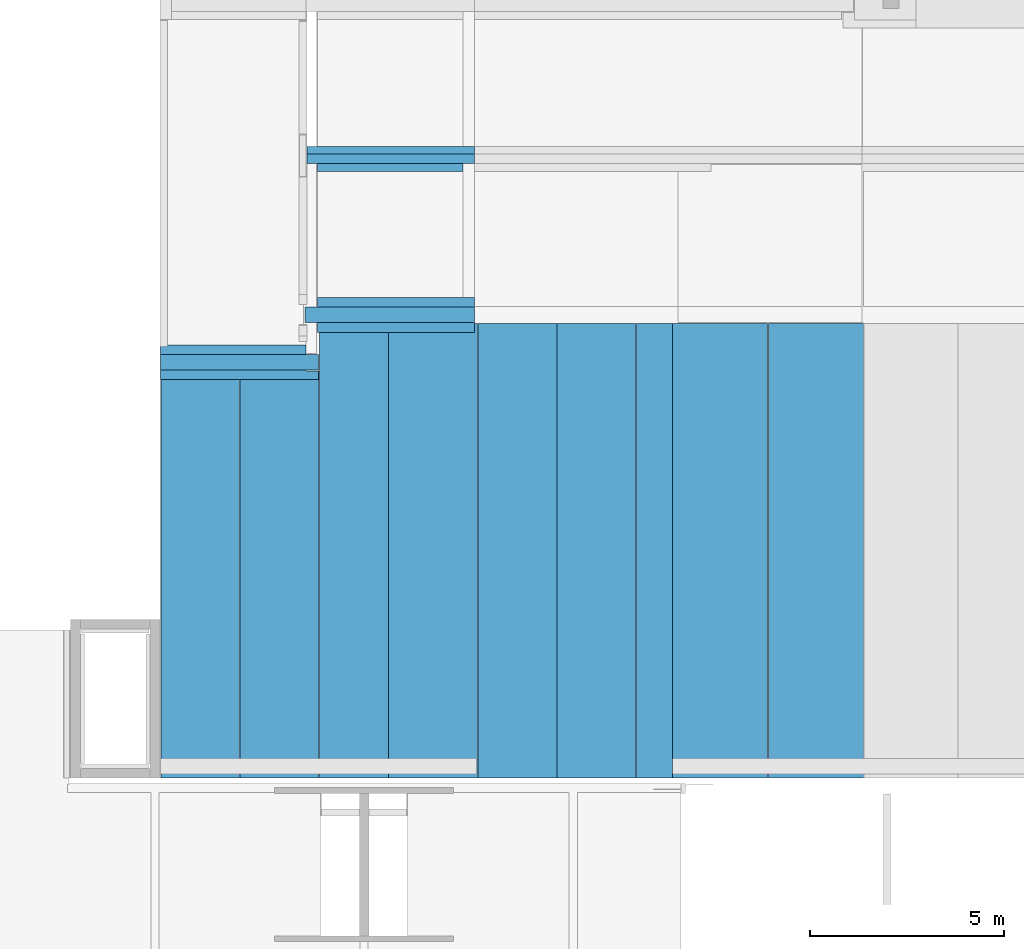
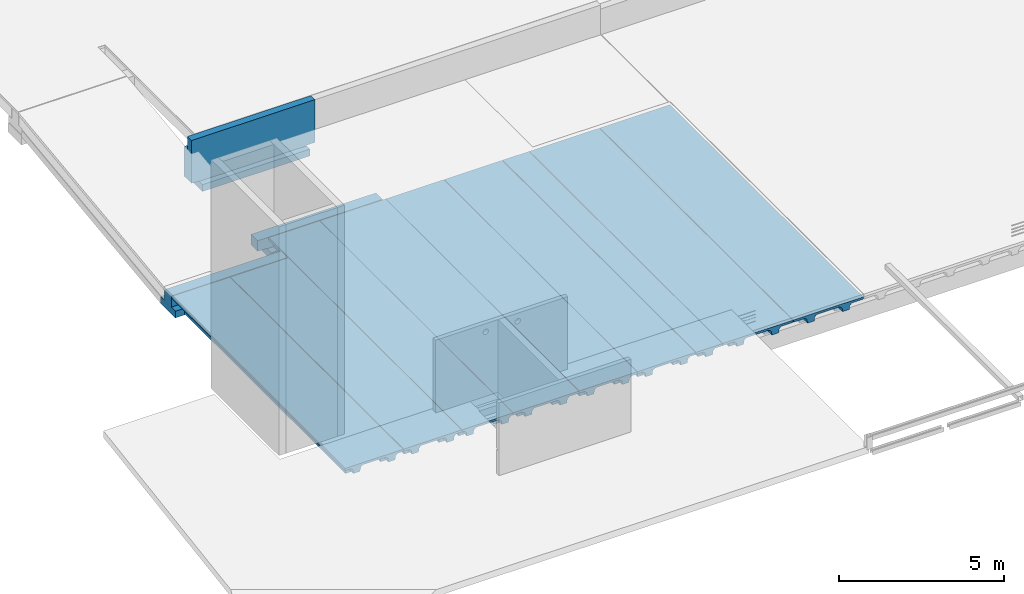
# One storey, part 26 of 36: 12 beams.
"""IFC2X3 building model written with IfcOpenShell, lengths in millimetres."""

from ifc_helpers import new_model, entity, si_unit, converted_unit, derived_unit, direction, frame, origin, place, context, subcontext, project, spatial, faceted_brep, material, type_object, element, save


model = new_model("IFC2X3")

# Units and contexts
model_context = context("Model", 3, precision=0.01, world=origin(), true_north=direction((6.12303176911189e-17, 1.0)))
body_context = subcontext(model_context, "Body", "Model", "MODEL_VIEW")
ifc_project = project(units=[si_unit("LENGTHUNIT", "METRE", prefix="MILLI"), si_unit("AREAUNIT", "SQUARE_METRE"), si_unit("VOLUMEUNIT", "CUBIC_METRE"), converted_unit("PLANEANGLEUNIT", "DEGREE", entity("IfcRatioMeasure", 0.0174532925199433), si_unit("PLANEANGLEUNIT", "RADIAN"), dimensions=[0, 0, 0, 0, 0, 0, 0]), si_unit("MASSUNIT", "GRAM", prefix="KILO"), derived_unit("MASSDENSITYUNIT", [(si_unit("MASSUNIT", "GRAM", prefix="KILO"), 1), (si_unit("LENGTHUNIT", "METRE"), -3)]), si_unit("TIMEUNIT", "SECOND"), si_unit("FREQUENCYUNIT", "HERTZ"), si_unit("THERMODYNAMICTEMPERATUREUNIT", "DEGREE_CELSIUS"), derived_unit("THERMALTRANSMITTANCEUNIT", [(si_unit("MASSUNIT", "GRAM", prefix="KILO"), 1), (si_unit("THERMODYNAMICTEMPERATUREUNIT", "KELVIN"), -1), (si_unit("TIMEUNIT", "SECOND"), -3)]), derived_unit("VOLUMETRICFLOWRATEUNIT", [(si_unit("LENGTHUNIT", "METRE"), 3), (si_unit("TIMEUNIT", "SECOND"), -1)]), si_unit("ELECTRICCURRENTUNIT", "AMPERE"), si_unit("ELECTRICVOLTAGEUNIT", "VOLT"), si_unit("POWERUNIT", "WATT"), si_unit("FORCEUNIT", "NEWTON", prefix="KILO"), si_unit("ILLUMINANCEUNIT", "LUX"), si_unit("LUMINOUSFLUXUNIT", "LUMEN"), si_unit("LUMINOUSINTENSITYUNIT", "CANDELA"), derived_unit("USERDEFINED", [(si_unit("MASSUNIT", "GRAM", prefix="KILO"), -1), (si_unit("LENGTHUNIT", "METRE"), -2), (si_unit("TIMEUNIT", "SECOND"), 3), (si_unit("LUMINOUSFLUXUNIT", "LUMEN"), 1)]), derived_unit("LINEARVELOCITYUNIT", [(si_unit("LENGTHUNIT", "METRE"), 1), (si_unit("TIMEUNIT", "SECOND"), -1)]), si_unit("PRESSUREUNIT", "PASCAL"), derived_unit("USERDEFINED", [(si_unit("LENGTHUNIT", "METRE"), -2), (si_unit("MASSUNIT", "GRAM", prefix="KILO"), 1), (si_unit("TIMEUNIT", "SECOND"), -2)])], contexts=[model_context])

# Site, building, storey
site_placement = place(None, origin())
site = spatial("IfcSite", under=ifc_project, at=site_placement, Name="Default", CompositionType="ELEMENT")
building_placement = place(site_placement, origin())
building = spatial("IfcBuilding", under=site, at=building_placement, Name="niet gebruiken", CompositionType="ELEMENT")
storey_placement = place(building_placement, frame((0.0, 0.0, 12600.0)))
storey = spatial("IfcBuildingStorey", under=building, at=storey_placement, Name="04 vierde verdieping", CompositionType="ELEMENT", Elevation=12600.0)

# Beams
ifc_material = material(Name="NLRS_f2_beton prefab")
beam_type_1 = type_object("IfcBeamType", Name="NLRS_28.11_SF_WPB_prefabbeton balk dubbele sponning_gen:650x1860/200x1530/200x490", PredefinedType="BEAM")
beam_1_placement = place(storey_placement, frame((12025.0, 24551.0, -2020.0)))
element("IfcBeam", 1, at=beam_1_placement, inside=storey, type_object=beam_type_1, material=ifc_material, Name="NLRS_28.11_SF_WPB_prefabbeton balk dubbele sponning_gen:650x1860/200x1530/200x490", ObjectType="NLRS_28.11_SF_WPB_prefabbeton balk dubbele sponning_gen:650x1860/200x1530/200x490", context=body_context, shape_type="Brep", body=[
    faceted_brep([(0.0, 450.0, 1370.0), (0.0, 650.0, 1370.0), (0.0, 650.0, 1327.46037565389), (0.0, 650.0, 275.0), (0.0, 200.0, 275.0), (0.0, 200.0, 1271.30609318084), (0.0, 200.0, 1372.08167895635), (0.0, 200.0, 1860.0), (0.0, 450.0, 1860.0), (0.0, 450.0, 1403.2785025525), (4320.0, 650.0, 1370.0), (4320.0, 650.0, 275.0), (4030.0, 650.0, 275.0), (4030.0, 650.0, 0.0), (270.0, 650.0, 0.0), (270.0, 650.0, 275.0), (4320.0, 450.0, 1370.0), (4320.0, 450.0, 1780.0), (4320.0, 450.0, 1859.0), (4320.0, 450.0, 1860.0), (4320.0, 200.0, 1860.0), (4320.0, 200.0, 760.0), (4320.0, 200.0, 660.0), (4320.0, 200.0, 275.0), (250.0, 450.0, 1860.0), (270.0, 200.0, 275.0), (270.0, 200.0, 255.0), (4030.0, 200.0, 255.0), (4030.0, 200.0, 275.0), (270.0, 0.0, 255.0), (4030.0, 0.0, 255.0), (270.0, 0.0, 0.0), (4030.0, 0.0, 0.0)], [[[0, 1, 2, 3, 4, 5, 6, 7, 8, 9]], [[1, 10, 11, 12, 13, 14, 15, 3, 2]], [[10, 16, 17, 18, 19, 20, 21, 22, 23, 11]], [[20, 19, 24, 8, 7]], [[20, 7, 6, 5, 4, 25, 26, 27, 28, 23, 22, 21]], [[26, 29, 30, 27]], [[16, 0, 9, 8, 24, 19, 18, 17]], [[1, 0, 16, 10]], [[29, 31, 32, 30]], [[31, 14, 13, 32]], [[25, 15, 14, 31, 29, 26]], [[15, 25, 4, 3]], [[12, 28, 27, 30, 32, 13]], [[28, 12, 11, 23]]]),
])
beam_type_2 = type_object("IfcBeamType", Name="NLRS_28.11_SF_WPB_tt-plaatvloer Holcon 102B_gen:TT-plaat, b=2460", PredefinedType="BEAM")
beam_2_placement = place(storey_placement, frame((23937.6624123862, 8896.0, -1970.0), z_axis=(0.0, 0.0, 1.0), x_axis=(0.0, -1.0, 0.0)))
element("IfcBeam", 2, at=beam_2_placement, inside=storey, type_object=beam_type_2, material=ifc_material, Name="NLRS_28.11_SF_WPB_tt-plaatvloer Holcon 102B_gen:TT-plaat, b=2460", ObjectType="NLRS_28.11_SF_WPB_tt-plaatvloer Holcon 102B_gen:TT-plaat, b=2460", context=body_context, shape_type="Brep", body=[
    faceted_brep([(-11730.0, 0.0, 610.0), (-11730.0, 0.0, 529.999995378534), (0.0, 0.0, 529.999995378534), (0.0, 0.0, 610.0), (-520.0, 733.513622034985, 320.0), (-520.0, 493.468888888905, 320.0), (-520.0, 518.500000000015, 0.0), (-520.0, 708.482510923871, 0.0), (-11480.0, 501.291111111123, 220.0), (-11480.0, 725.691399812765, 220.0), (-11480.0, 708.482510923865, 0.0), (-11480.0, 518.500000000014, 0.0), (-11730.0, 744.000076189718, 454.059783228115), (-11730.0, 819.940288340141, 529.999995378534), (0.0, 819.940288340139, 529.999995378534), (0.0, 744.000076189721, 454.059783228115), (-11730.0, 1971.01904939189, 454.078756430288), (-11730.0, 2046.94028834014, 529.999995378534), (0.0, 2046.94028834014, 529.999995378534), (0.0, 1971.01904939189, 454.078756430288), (-11730.0, 1634.05971165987, 529.999995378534), (-11730.0, 1709.9999238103, 454.059783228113), (0.0, 1709.9999238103, 454.059783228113), (0.0, 1634.05971165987, 529.999995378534), (-11730.0, 2454.0, 610.0), (-11730.0, 2454.0, 529.999995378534), (-11730.0, 1952.7088888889, 220.0), (-11730.0, 1728.30860018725, 220.0), (-11730.0, 725.691399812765, 220.0), (-11730.0, 501.291111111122, 220.0), (-11730.0, 482.980950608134, 454.078756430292), (-11730.0, 407.059711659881, 529.999995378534), (0.0, 407.059711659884, 529.999995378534), (0.0, 482.980950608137, 454.078756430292), (0.0, 493.468888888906, 320.0), (0.0, 733.513622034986, 320.0), (0.0, 1720.48637796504, 320.0), (0.0, 1960.53111111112, 320.0), (0.0, 2454.0, 529.999995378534), (0.0, 2454.0, 610.0), (-520.0, 1935.5, 0.0), (-520.0, 1745.51748907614, 0.0), (-11480.0, 1745.51748907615, 0.0), (-11480.0, 1935.5, 0.0), (-520.0, 1960.53111111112, 320.0), (-11480.0, 1952.7088888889, 220.0), (-11480.0, 1728.30860018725, 220.0), (-520.0, 1720.48637796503, 320.0)], [[[0, 1, 2, 3]], [[4, 5, 6, 7]], [[8, 9, 10, 11]], [[12, 13, 14, 15]], [[16, 17, 18, 19]], [[20, 21, 22, 23]], [[0, 24, 25, 17, 16, 26, 27, 21, 20, 13, 12, 28, 29, 30, 31, 1]], [[3, 2, 32, 33, 34, 35, 15, 14, 23, 22, 36, 37, 19, 18, 38, 39]], [[1, 31, 32, 2]], [[24, 0, 3, 39]], [[25, 24, 39, 38]], [[17, 25, 38, 18]], [[13, 20, 23, 14]], [[40, 41, 42, 43]], [[16, 19, 37, 44, 40, 43, 45, 26]], [[22, 21, 27, 46, 42, 41, 47, 36]], [[12, 15, 35, 4, 7, 10, 9, 28]], [[7, 6, 11, 10]], [[33, 30, 29, 8, 11, 6, 5, 34]], [[5, 4, 35, 34]], [[9, 8, 29, 28]], [[31, 30, 33, 32]], [[44, 47, 41, 40]], [[45, 46, 27, 26]], [[47, 44, 37, 36]], [[46, 45, 43, 42]]]),
])
beam_3_placement = place(storey_placement, frame((21466.9141023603, 8896.0, -1970.0), z_axis=(0.0, 0.0, 1.0), x_axis=(0.0, -1.0, 0.0)))
element("IfcBeam", 3, at=beam_3_placement, inside=storey, type_object=beam_type_2, material=ifc_material, Name="NLRS_28.11_SF_WPB_tt-plaatvloer Holcon 102B_gen:TT-plaat, b=2460", ObjectType="NLRS_28.11_SF_WPB_tt-plaatvloer Holcon 102B_gen:TT-plaat, b=2460", context=body_context, shape_type="Brep", body=[
    faceted_brep([(-11730.0, 0.0, 610.0), (-11730.0, 0.0, 529.999995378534), (0.0, 0.0, 529.999995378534), (0.0, 0.0, 610.0), (-520.0, 733.513622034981, 320.0), (-520.0, 493.4688888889, 320.0), (-520.0, 518.500000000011, 0.0), (-520.0, 708.482510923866, 0.0), (-11480.0, 501.291111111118, 220.0), (-11480.0, 725.691399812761, 220.0), (-11480.0, 708.482510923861, 0.0), (-11480.0, 518.50000000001, 0.0), (-11730.0, 744.000076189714, 454.059783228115), (-11730.0, 819.940288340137, 529.999995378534), (0.0, 819.940288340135, 529.999995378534), (0.0, 744.000076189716, 454.059783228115), (-11730.0, 1971.01904939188, 454.078756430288), (-11730.0, 2046.94028834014, 529.999995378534), (0.0, 2046.94028834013, 529.999995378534), (0.0, 1971.01904939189, 454.078756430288), (-11730.0, 1634.05971165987, 529.999995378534), (-11730.0, 1709.99992381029, 454.059783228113), (0.0, 1709.99992381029, 454.059783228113), (0.0, 1634.05971165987, 529.999995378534), (-11730.0, 2454.0, 610.0), (-11730.0, 2454.0, 529.999995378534), (-11730.0, 1952.70888888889, 220.0), (-11730.0, 1728.30860018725, 220.0), (-11730.0, 725.69139981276, 220.0), (-11730.0, 501.291111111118, 220.0), (-11730.0, 482.98095060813, 454.078756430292), (-11730.0, 407.059711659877, 529.999995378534), (0.0, 407.05971165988, 529.999995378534), (0.0, 482.980950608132, 454.078756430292), (0.0, 493.468888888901, 320.0), (0.0, 733.513622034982, 320.0), (0.0, 1720.48637796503, 320.0), (0.0, 1960.53111111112, 320.0), (0.0, 2454.0, 529.999995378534), (0.0, 2454.0, 610.0), (-520.0, 1935.5, 0.0), (-520.0, 1745.51748907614, 0.0), (-11480.0, 1745.51748907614, 0.0), (-11480.0, 1935.5, 0.0), (-520.0, 1960.53111111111, 320.0), (-11480.0, 1952.70888888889, 220.0), (-11480.0, 1728.30860018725, 220.0), (-520.0, 1720.48637796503, 320.0)], [[[0, 1, 2, 3]], [[4, 5, 6, 7]], [[8, 9, 10, 11]], [[12, 13, 14, 15]], [[16, 17, 18, 19]], [[20, 21, 22, 23]], [[0, 24, 25, 17, 16, 26, 27, 21, 20, 13, 12, 28, 29, 30, 31, 1]], [[3, 2, 32, 33, 34, 35, 15, 14, 23, 22, 36, 37, 19, 18, 38, 39]], [[1, 31, 32, 2]], [[24, 0, 3, 39]], [[25, 24, 39, 38]], [[17, 25, 38, 18]], [[13, 20, 23, 14]], [[40, 41, 42, 43]], [[16, 19, 37, 44, 40, 43, 45, 26]], [[22, 21, 27, 46, 42, 41, 47, 36]], [[12, 15, 35, 4, 7, 10, 9, 28]], [[7, 6, 11, 10]], [[33, 30, 29, 8, 11, 6, 5, 34]], [[5, 4, 35, 34]], [[9, 8, 29, 28]], [[31, 30, 33, 32]], [[44, 47, 41, 40]], [[46, 45, 43, 42]], [[47, 44, 37, 36]], [[45, 46, 27, 26]]]),
])
beam_type_3 = type_object("IfcBeamType", Name="NLRS_28.11_SF_WPB_tt-plaatvloer Holcon 102B_gen:TT-plaat, b=2040", PredefinedType="BEAM")
beam_4_placement = place(storey_placement, frame((18483.3738495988, 8896.0, -1970.0), z_axis=(0.0, 0.0, 1.0), x_axis=(0.0, -1.0, 0.0)))
element("IfcBeam", 4, at=beam_4_placement, inside=storey, type_object=beam_type_3, material=ifc_material, Name="NLRS_28.11_SF_WPB_tt-plaatvloer Holcon 102B_gen:TT-plaat, b=2040", ObjectType="NLRS_28.11_SF_WPB_tt-plaatvloer Holcon 102B_gen:TT-plaat, b=2040", context=body_context, shape_type="Brep", body=[
    faceted_brep([(-11730.0, 0.0, 610.0), (-11730.0, 0.0, 529.999995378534), (0.0, 0.0, 529.999995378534), (0.0, 0.0, 610.0), (-520.0, 523.513622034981, 320.0), (-520.0, 283.468888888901, 320.0), (-520.0, 308.500000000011, 0.0), (-520.0, 498.482510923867, 0.0), (-11480.0, 291.291111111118, 220.0), (-11480.0, 515.691399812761, 220.0), (-11480.0, 498.48251092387, 0.0), (-11480.0, 308.500000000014, 0.0), (-11730.0, 534.000076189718, 454.059783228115), (-11730.0, 609.940288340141, 529.999995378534), (0.0, 609.940288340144, 529.999995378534), (0.0, 534.000076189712, 454.059783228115), (-11730.0, 1761.01904939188, 454.078756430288), (-11730.0, 1836.94028834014, 529.999995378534), (0.0, 1836.94028834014, 529.999995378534), (0.0, 1761.01904939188, 454.078756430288), (-11730.0, 1424.05971165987, 529.999995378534), (-11730.0, 1499.9999238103, 454.059783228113), (0.0, 1499.9999238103, 454.059783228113), (0.0, 1424.05971165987, 529.999995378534), (-11730.0, 2034.0, 610.0), (-11730.0, 2034.0, 529.999995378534), (-11730.0, 1742.70888888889, 220.0), (-11730.0, 1518.30860018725, 220.0), (-11730.0, 515.691399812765, 220.0), (-11730.0, 291.291111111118, 220.0), (-11730.0, 272.980950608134, 454.078756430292), (-11730.0, 197.059711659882, 529.999995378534), (0.0, 197.05971165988, 529.999995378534), (0.0, 272.980950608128, 454.078756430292), (0.0, 283.468888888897, 320.0), (0.0, 523.513622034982, 320.0), (0.0, 1510.48637796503, 320.0), (0.0, 1750.53111111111, 320.0), (0.0, 2034.0, 529.999995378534), (0.0, 2034.0, 610.0), (-520.0, 1725.5, 0.0), (-520.0, 1535.51748907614, 0.0), (-11480.0, 1535.51748907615, 0.0), (-11480.0, 1725.5, 0.0), (-520.0, 1750.53111111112, 320.0), (-11480.0, 1742.7088888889, 220.0), (-11480.0, 1518.30860018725, 220.0), (-520.0, 1510.48637796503, 320.0)], [[[0, 1, 2, 3]], [[4, 5, 6, 7]], [[8, 9, 10, 11]], [[12, 13, 14, 15]], [[16, 17, 18, 19]], [[20, 21, 22, 23]], [[0, 24, 25, 17, 16, 26, 27, 21, 20, 13, 12, 28, 29, 30, 31, 1]], [[3, 2, 32, 33, 34, 35, 15, 14, 23, 22, 36, 37, 19, 18, 38, 39]], [[1, 31, 32, 2]], [[24, 0, 3, 39]], [[25, 24, 39, 38]], [[17, 25, 38, 18]], [[13, 20, 23, 14]], [[40, 41, 42, 43]], [[16, 19, 37, 44, 40, 43, 45, 26]], [[22, 21, 27, 46, 42, 41, 47, 36]], [[12, 15, 35, 4, 7, 10, 9, 28]], [[7, 6, 11, 10]], [[33, 30, 29, 8, 11, 6, 5, 34]], [[5, 4, 35, 34]], [[9, 8, 29, 28]], [[31, 30, 33, 32]], [[44, 47, 41, 40]], [[46, 45, 43, 42]], [[47, 44, 37, 36]], [[45, 46, 27, 26]]]),
])
beam_5_placement = place(storey_placement, frame((16441.0087676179, 8896.0, -1970.0), z_axis=(0.0, 0.0, 1.0), x_axis=(0.0, -1.0, 0.0)))
element("IfcBeam", 5, at=beam_5_placement, inside=storey, type_object=beam_type_3, material=ifc_material, Name="NLRS_28.11_SF_WPB_tt-plaatvloer Holcon 102B_gen:TT-plaat, b=2040", ObjectType="NLRS_28.11_SF_WPB_tt-plaatvloer Holcon 102B_gen:TT-plaat, b=2040", context=body_context, shape_type="Brep", body=[
    faceted_brep([(-11730.0, 0.0, 610.0), (-11730.0, 0.0, 529.999995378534), (0.0, 0.0, 529.999995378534), (0.0, 0.0, 610.0), (-520.0, 523.513622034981, 320.0), (-520.0, 283.468888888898, 320.0), (-520.0, 308.500000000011, 0.0), (-520.0, 498.482510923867, 0.0), (-11480.0, 291.291111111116, 220.0), (-11480.0, 515.691399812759, 220.0), (-11480.0, 498.482510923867, 0.0), (-11480.0, 308.500000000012, 0.0), (-11730.0, 534.000076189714, 454.059783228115), (-11730.0, 609.940288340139, 529.999995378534), (0.0, 609.940288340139, 529.999995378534), (0.0, 534.000076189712, 454.059783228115), (-11730.0, 1761.01904939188, 454.078756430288), (-11730.0, 1836.94028834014, 529.999995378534), (0.0, 1836.94028834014, 529.999995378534), (0.0, 1761.01904939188, 454.078756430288), (-11730.0, 1424.05971165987, 529.999995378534), (-11730.0, 1499.9999238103, 454.059783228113), (0.0, 1499.9999238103, 454.059783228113), (0.0, 1424.05971165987, 529.999995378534), (-11730.0, 2034.0, 610.0), (-11730.0, 2034.0, 529.999995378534), (-11730.0, 1742.70888888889, 220.0), (-11730.0, 1518.30860018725, 220.0), (-11730.0, 515.691399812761, 220.0), (-11730.0, 291.291111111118, 220.0), (-11730.0, 272.98095060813, 454.078756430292), (-11730.0, 197.059711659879, 529.999995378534), (0.0, 197.059711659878, 529.999995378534), (0.0, 272.980950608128, 454.078756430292), (0.0, 283.468888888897, 320.0), (0.0, 523.513622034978, 320.0), (0.0, 1510.48637796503, 320.0), (0.0, 1750.53111111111, 320.0), (0.0, 2034.0, 529.999995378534), (0.0, 2034.0, 610.0), (-520.0, 1725.5, 0.0), (-520.0, 1535.51748907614, 0.0), (-11480.0, 1535.51748907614, 0.0), (-11480.0, 1725.5, 0.0), (-520.0, 1750.53111111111, 320.0), (-11480.0, 1742.7088888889, 220.0), (-11480.0, 1518.30860018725, 220.0), (-520.0, 1510.48637796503, 320.0)], [[[0, 1, 2, 3]], [[4, 5, 6, 7]], [[8, 9, 10, 11]], [[12, 13, 14, 15]], [[16, 17, 18, 19]], [[20, 21, 22, 23]], [[0, 24, 25, 17, 16, 26, 27, 21, 20, 13, 12, 28, 29, 30, 31, 1]], [[3, 2, 32, 33, 34, 35, 15, 14, 23, 22, 36, 37, 19, 18, 38, 39]], [[1, 31, 32, 2]], [[24, 0, 3, 39]], [[25, 24, 39, 38]], [[17, 25, 38, 18]], [[13, 20, 23, 14]], [[40, 41, 42, 43]], [[16, 19, 37, 44, 40, 43, 45, 26]], [[22, 21, 27, 46, 42, 41, 47, 36]], [[12, 15, 35, 4, 7, 10, 9, 28]], [[7, 6, 11, 10]], [[33, 30, 29, 8, 11, 6, 5, 34]], [[5, 4, 35, 34]], [[9, 8, 29, 28]], [[31, 30, 33, 32]], [[45, 46, 27, 26]], [[47, 44, 37, 36]], [[46, 45, 43, 42]], [[44, 47, 41, 40]]]),
])
beam_6_placement = place(storey_placement, frame((8252.0, 8896.0, -1970.0), z_axis=(0.0, 2.38712955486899e-09, 1.0), x_axis=(0.0, -1.0, 2.38712955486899e-09)))
element("IfcBeam", 6, at=beam_6_placement, inside=storey, type_object=beam_type_3, material=ifc_material, Name="NLRS_28.11_SF_WPB_tt-plaatvloer Holcon 102B_gen:TT-plaat, b=2040", ObjectType="NLRS_28.11_SF_WPB_tt-plaatvloer Holcon 102B_gen:TT-plaat, b=2040", context=body_context, shape_type="Brep", body=[
    faceted_brep([(-10510.0, 0.0, 610.000024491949), (-10510.0, 2034.0, 610.000024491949), (-10510.0, 2034.0, 530.000019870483), (-10510.0, 1836.94028834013, 530.000019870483), (-10510.0, 1761.01904939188, 454.078780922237), (-10510.0, 1742.70888888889, 220.000024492), (-10510.0, 1518.30860018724, 220.000024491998), (-10510.0, 1499.99992381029, 454.059807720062), (-10510.0, 1424.05971165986, 530.000019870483), (-10510.0, 609.940288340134, 530.000019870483), (-10510.0, 534.000076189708, 454.059807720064), (-10510.0, 515.691399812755, 220.000024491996), (-10510.0, 291.291111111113, 220.000024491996), (-10510.0, 272.980950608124, 454.078780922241), (-10510.0, 197.059711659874, 530.000019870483), (-10510.0, 0.0, 530.000019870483), (7.63876785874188e-07, 0.0, 610.000024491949), (7.63878691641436e-07, 0.0, 530.000019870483), (7.63878691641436e-07, 197.059711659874, 530.000019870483), (7.6387999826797e-07, 272.980950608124, 454.078780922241), (7.63877507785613e-07, 283.468888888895, 320.000024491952), (7.63877507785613e-07, 523.513622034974, 320.000024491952), (7.63875855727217e-07, 534.000076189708, 454.059807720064), (7.63878691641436e-07, 609.940288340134, 530.000019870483), (7.63878691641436e-07, 1424.05971165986, 530.000019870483), (7.6388018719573e-07, 1499.99992381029, 454.059807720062), (7.63879673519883e-07, 1510.48637796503, 320.000024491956), (7.63879673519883e-07, 1750.53111111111, 320.000024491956), (7.63877832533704e-07, 1761.01904939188, 454.078780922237), (7.63876525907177e-07, 1836.94028834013, 530.000019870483), (7.63876525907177e-07, 2034.0, 530.000019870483), (7.63876785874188e-07, 2034.0, 610.000024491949), (-520.0, 1725.49999999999, 2.44919487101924e-05), (-520.0, 1535.51748907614, 2.44919487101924e-05), (-10260.0, 1535.51748907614, 2.44919487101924e-05), (-10260.0, 1725.49999999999, 2.44919487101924e-05), (-520.0, 1750.53111111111, 320.000024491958), (-10260.0, 1742.70888888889, 220.000024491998), (-10260.0, 1518.30860018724, 220.000024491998), (-520.0, 1510.48637796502, 320.000024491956), (-520.0, 523.513622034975, 320.000024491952), (-520.0, 498.482510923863, 2.44919487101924e-05), (-10260.0, 498.482510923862, 2.44919508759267e-05), (-10260.0, 515.691399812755, 220.000024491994), (-520.0, 308.500000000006, 2.44919508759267e-05), (-10260.0, 308.500000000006, 2.44919508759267e-05), (-10260.0, 291.291111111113, 220.000024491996), (-520.0, 283.468888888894, 320.000024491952)], [[[0, 1, 2, 3, 4, 5, 6, 7, 8, 9, 10, 11, 12, 13, 14, 15]], [[16, 17, 18, 19, 20, 21, 22, 23, 24, 25, 26, 27, 28, 29, 30, 31]], [[15, 14, 18, 17]], [[1, 0, 16, 31]], [[2, 1, 31, 30]], [[3, 2, 30, 29]], [[9, 8, 24, 23]], [[0, 15, 17, 16]], [[32, 33, 34, 35]], [[4, 28, 27, 36, 32, 35, 37, 5]], [[25, 7, 6, 38, 34, 33, 39, 26]], [[10, 22, 21, 40, 41, 42, 43, 11]], [[41, 44, 45, 42]], [[19, 13, 12, 46, 45, 44, 47, 20]], [[47, 40, 21, 20]], [[40, 47, 44, 41]], [[43, 46, 12, 11]], [[46, 43, 42, 45]], [[10, 9, 23, 22]], [[4, 3, 29, 28]], [[8, 7, 25, 24]], [[14, 13, 19, 18]], [[39, 36, 27, 26]], [[36, 39, 33, 32]], [[37, 38, 6, 5]], [[38, 37, 35, 34]]]),
])
beam_7_placement = place(storey_placement, frame((10300.7509887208, 8896.0, -1970.0), z_axis=(0.0, 2.38712955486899e-09, 1.0), x_axis=(0.0, -1.0, 2.38712955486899e-09)))
element("IfcBeam", 7, at=beam_7_placement, inside=storey, type_object=beam_type_3, material=ifc_material, Name="NLRS_28.11_SF_WPB_tt-plaatvloer Holcon 102B_gen:TT-plaat, b=2040", ObjectType="NLRS_28.11_SF_WPB_tt-plaatvloer Holcon 102B_gen:TT-plaat, b=2040", context=body_context, shape_type="Brep", body=[
    faceted_brep([(-10510.0, 0.0, 610.000024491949), (-10510.0, 2034.0, 610.000024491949), (-10510.0, 2034.0, 530.000019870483), (-10510.0, 1836.94028834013, 530.000019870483), (-10510.0, 1761.01904939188, 454.078780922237), (-10510.0, 1742.70888888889, 220.000024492), (-10510.0, 1518.30860018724, 220.000024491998), (-10510.0, 1499.99992381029, 454.059807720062), (-10510.0, 1424.05971165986, 530.000019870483), (-10510.0, 609.940288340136, 530.000019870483), (-10510.0, 534.00007618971, 454.059807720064), (-10510.0, 515.691399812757, 220.000024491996), (-10510.0, 291.291111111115, 220.000024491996), (-10510.0, 272.980950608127, 454.078780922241), (-10510.0, 197.059711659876, 530.000019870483), (-10510.0, 0.0, 530.000019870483), (7.63876785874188e-07, 0.0, 610.000024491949), (7.63878691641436e-07, 0.0, 530.000019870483), (7.63878691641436e-07, 197.059711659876, 530.000019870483), (7.6387999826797e-07, 272.980950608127, 454.078780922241), (7.63877507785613e-07, 283.468888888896, 320.000024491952), (7.63879673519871e-07, 523.513622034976, 320.000024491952), (7.63878021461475e-07, 534.000076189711, 454.059807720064), (7.63880857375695e-07, 609.940288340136, 530.000019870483), (7.63878691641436e-07, 1424.05971165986, 530.000019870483), (7.6388018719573e-07, 1499.99992381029, 454.059807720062), (7.63879673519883e-07, 1510.48637796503, 320.000024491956), (7.63879673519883e-07, 1750.53111111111, 320.000024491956), (7.63877832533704e-07, 1761.01904939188, 454.078780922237), (7.63878691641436e-07, 1836.94028834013, 530.000019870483), (7.63878691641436e-07, 2034.0, 530.000019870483), (7.63878951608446e-07, 2034.0, 610.000024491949), (-520.0, 1725.49999999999, 2.44919487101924e-05), (-520.0, 1535.51748907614, 2.44919487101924e-05), (-10260.0, 1535.51748907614, 2.44919487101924e-05), (-10260.0, 1725.5, 2.44919487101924e-05), (-520.0, 1750.53111111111, 320.000024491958), (-10260.0, 1742.70888888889, 220.000024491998), (-10260.0, 1518.30860018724, 220.000024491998), (-520.0, 1510.48637796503, 320.000024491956), (-520.0, 523.513622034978, 320.000024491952), (-520.0, 498.482510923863, 2.44919487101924e-05), (-10260.0, 498.482510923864, 2.44919508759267e-05), (-10260.0, 515.691399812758, 220.000024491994), (-520.0, 308.500000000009, 2.44919508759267e-05), (-10260.0, 308.500000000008, 2.44919508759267e-05), (-10260.0, 291.291111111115, 220.000024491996), (-520.0, 283.468888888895, 320.000024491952)], [[[0, 1, 2, 3, 4, 5, 6, 7, 8, 9, 10, 11, 12, 13, 14, 15]], [[16, 17, 18, 19, 20, 21, 22, 23, 24, 25, 26, 27, 28, 29, 30, 31]], [[15, 14, 18, 17]], [[1, 0, 16, 31]], [[2, 1, 31, 30]], [[3, 2, 30, 29]], [[9, 8, 24, 23]], [[0, 15, 17, 16]], [[32, 33, 34, 35]], [[4, 28, 27, 36, 32, 35, 37, 5]], [[25, 7, 6, 38, 34, 33, 39, 26]], [[10, 22, 21, 40, 41, 42, 43, 11]], [[41, 44, 45, 42]], [[19, 13, 12, 46, 45, 44, 47, 20]], [[47, 40, 21, 20]], [[40, 47, 44, 41]], [[43, 46, 12, 11]], [[46, 43, 42, 45]], [[10, 9, 23, 22]], [[4, 3, 29, 28]], [[8, 7, 25, 24]], [[14, 13, 19, 18]], [[39, 36, 27, 26]], [[36, 39, 33, 32]], [[37, 38, 6, 5]], [[38, 37, 35, 34]]]),
])
beam_type_4 = type_object("IfcBeamType", Name="NLRS_28.11_SF_WPB_tt-plaatvloer Holcon 102B_gen:TT-plaat, b=1790", PredefinedType="BEAM")
beam_8_placement = place(storey_placement, frame((12345.5009887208, 8896.0, -1970.0), z_axis=(0.0, 0.0, 1.0), x_axis=(0.0, -1.0, 0.0)))
element("IfcBeam", 8, at=beam_8_placement, inside=storey, type_object=beam_type_4, material=ifc_material, Name="NLRS_28.11_SF_WPB_tt-plaatvloer Holcon 102B_gen:TT-plaat, b=1790", ObjectType="NLRS_28.11_SF_WPB_tt-plaatvloer Holcon 102B_gen:TT-plaat, b=1790", context=body_context, shape_type="Brep", body=[
    faceted_brep([(-11730.0, 0.0, 610.0), (-11730.0, 0.0, 529.999995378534), (0.0, 0.0, 529.999995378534), (0.0, 0.0, 610.0), (-520.0, 398.513622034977, 320.0), (-520.0, 158.468888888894, 320.0), (-520.0, 183.500000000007, 0.0), (-520.0, 373.482510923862, 0.0), (-11480.0, 166.291111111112, 220.0), (-11480.0, 390.691399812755, 220.0), (-11480.0, 373.482510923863, 0.0), (-11480.0, 183.500000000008, 0.0), (-11730.0, 409.00007618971, 454.059783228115), (-11730.0, 484.940288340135, 529.999995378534), (0.0, 484.940288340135, 529.999995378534), (0.0, 409.000076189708, 454.059783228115), (-11730.0, 1636.01904939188, 454.078756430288), (-11730.0, 1711.94028834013, 529.999995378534), (0.0, 1711.94028834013, 529.999995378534), (0.0, 1636.01904939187, 454.078756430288), (-11730.0, 1299.05971165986, 529.999995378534), (-11730.0, 1374.99992381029, 454.059783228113), (0.0, 1374.99992381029, 454.059783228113), (0.0, 1299.05971165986, 529.999995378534), (-11730.0, 1784.0, 610.0), (-11730.0, 1784.0, 529.999995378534), (-11730.0, 1617.70888888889, 220.0), (-11730.0, 1393.30860018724, 220.0), (-11730.0, 390.691399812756, 220.0), (-11730.0, 166.291111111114, 220.0), (-11730.0, 147.980950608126, 454.078756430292), (-11730.0, 72.0597116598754, 529.999995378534), (0.0, 72.0597116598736, 529.999995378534), (0.0, 147.980950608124, 454.078756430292), (0.0, 158.468888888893, 320.0), (0.0, 398.513622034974, 320.0), (0.0, 1385.48637796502, 320.0), (0.0, 1625.53111111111, 320.0), (0.0, 1784.0, 529.999995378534), (0.0, 1784.0, 610.0), (-520.0, 1600.49999999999, 0.0), (-520.0, 1410.51748907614, 0.0), (-11480.0, 1410.51748907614, 0.0), (-11480.0, 1600.5, 0.0), (-520.0, 1625.53111111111, 320.0), (-11480.0, 1617.70888888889, 220.0), (-11480.0, 1393.30860018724, 220.0), (-520.0, 1385.48637796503, 320.0)], [[[0, 1, 2, 3]], [[4, 5, 6, 7]], [[8, 9, 10, 11]], [[12, 13, 14, 15]], [[16, 17, 18, 19]], [[20, 21, 22, 23]], [[0, 24, 25, 17, 16, 26, 27, 21, 20, 13, 12, 28, 29, 30, 31, 1]], [[3, 2, 32, 33, 34, 35, 15, 14, 23, 22, 36, 37, 19, 18, 38, 39]], [[1, 31, 32, 2]], [[24, 0, 3, 39]], [[25, 24, 39, 38]], [[17, 25, 38, 18]], [[13, 20, 23, 14]], [[40, 41, 42, 43]], [[16, 19, 37, 44, 40, 43, 45, 26]], [[22, 21, 27, 46, 42, 41, 47, 36]], [[12, 15, 35, 4, 7, 10, 9, 28]], [[7, 6, 11, 10]], [[33, 30, 29, 8, 11, 6, 5, 34]], [[5, 4, 35, 34]], [[9, 8, 29, 28]], [[31, 30, 33, 32]], [[44, 47, 41, 40]], [[46, 45, 43, 42]], [[47, 44, 37, 36]], [[45, 46, 27, 26]]]),
])
beam_type_5 = type_object("IfcBeamType", Name="NLRS_28.11_SF_WPB_tt-plaatvloer Holcon 102B_gen:TT-plaat, b=2305", PredefinedType="BEAM")
beam_9_placement = place(storey_placement, frame((14133.42278733, 8896.0, -1970.0), z_axis=(0.0, 0.0, 1.0), x_axis=(0.0, -1.0, 0.0)))
element("IfcBeam", 9, at=beam_9_placement, inside=storey, type_object=beam_type_5, material=ifc_material, Name="NLRS_28.11_SF_WPB_tt-plaatvloer Holcon 102B_gen:TT-plaat, b=2305", ObjectType="NLRS_28.11_SF_WPB_tt-plaatvloer Holcon 102B_gen:TT-plaat, b=2305", context=body_context, shape_type="Brep", body=[
    faceted_brep([(-11730.0, 0.0, 610.0), (-11730.0, 2299.0, 610.0), (-11730.0, 2299.0, 529.999995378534), (-11730.0, 1969.44028834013, 529.999995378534), (-11730.0, 1893.51904939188, 454.078756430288), (-11730.0, 1875.20888888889, 220.0), (-11730.0, 1650.80860018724, 220.0), (-11730.0, 1632.49992381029, 454.059783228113), (-11730.0, 1556.55971165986, 529.999995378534), (-11730.0, 742.440288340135, 529.999995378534), (-11730.0, 666.50007618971, 454.059783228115), (-11730.0, 648.191399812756, 220.0), (-11730.0, 423.791111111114, 220.0), (-11730.0, 405.480950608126, 454.078756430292), (-11730.0, 329.559711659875, 529.999995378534), (-11730.0, 0.0, 529.999995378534), (0.0, 0.0, 610.0), (0.0, 0.0, 529.999995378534), (0.0, 329.559711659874, 529.999995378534), (0.0, 405.480950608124, 454.078756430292), (0.0, 415.968888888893, 320.0), (0.0, 656.013622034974, 320.0), (0.0, 666.500076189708, 454.059783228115), (0.0, 742.440288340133, 529.999995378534), (0.0, 1556.55971165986, 529.999995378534), (0.0, 1632.49992381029, 454.059783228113), (0.0, 1642.98637796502, 320.0), (0.0, 1883.03111111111, 320.0), (0.0, 1893.51904939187, 454.078756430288), (0.0, 1969.44028834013, 529.999995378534), (0.0, 2299.0, 529.999995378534), (0.0, 2299.0, 610.0), (-520.0, 1858.0, 0.0), (-520.0, 1668.01748907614, 0.0), (-11480.0, 1668.01748907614, 0.0), (-11480.0, 1858.0, 0.0), (-520.0, 1883.03111111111, 320.0), (-11480.0, 1875.20888888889, 220.0), (-11480.0, 1650.80860018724, 220.0), (-520.0, 1642.98637796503, 320.0), (-520.0, 656.013622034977, 320.0), (-520.0, 630.982510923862, 0.0), (-11480.0, 630.982510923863, 0.0), (-11480.0, 648.191399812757, 220.0), (-520.0, 441.0, 0.0), (-11480.0, 441.0, 0.0), (-11480.0, 423.791111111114, 220.0), (-520.0, 415.968888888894, 320.0)], [[[0, 1, 2, 3, 4, 5, 6, 7, 8, 9, 10, 11, 12, 13, 14, 15]], [[16, 17, 18, 19, 20, 21, 22, 23, 24, 25, 26, 27, 28, 29, 30, 31]], [[15, 14, 18, 17]], [[1, 0, 16, 31]], [[2, 1, 31, 30]], [[3, 2, 30, 29]], [[9, 8, 24, 23]], [[0, 15, 17, 16]], [[32, 33, 34, 35]], [[4, 28, 27, 36, 32, 35, 37, 5]], [[25, 7, 6, 38, 34, 33, 39, 26]], [[10, 22, 21, 40, 41, 42, 43, 11]], [[41, 44, 45, 42]], [[19, 13, 12, 46, 45, 44, 47, 20]], [[47, 40, 21, 20]], [[40, 47, 44, 41]], [[43, 46, 12, 11]], [[46, 43, 42, 45]], [[10, 9, 23, 22]], [[4, 3, 29, 28]], [[8, 7, 25, 24]], [[14, 13, 19, 18]], [[37, 38, 6, 5]], [[36, 39, 33, 32]], [[39, 36, 27, 26]], [[38, 37, 35, 34]]]),
])
beam_type_6 = type_object("IfcBeamType", Name="NLRS_28.11_SF_WPB_prefabbeton balk dubbele sponning_gen:800x660/250x410/250x410", PredefinedType="BEAM")
beam_10_placement = place(storey_placement, frame((8245.0, 19176.0, -2020.0)))
element("IfcBeam", 10, at=beam_10_placement, inside=storey, type_object=beam_type_6, material=ifc_material, Name="NLRS_28.11_SF_WPB_prefabbeton balk dubbele sponning_gen:800x660/250x410/250x410", ObjectType="NLRS_28.11_SF_WPB_prefabbeton balk dubbele sponning_gen:800x660/250x410/250x410", context=body_context, shape_type="Brep", body=[
    faceted_brep([(0.0, 650.0, 660.0), (0.0, 650.0, 250.0), (0.0, 861.417853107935, 250.0), (0.0, 900.0, 250.0), (0.0, 900.0, 27.9085499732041), (0.0, 900.0, 0.0), (0.0, 0.0, 0.0), (0.0, 0.0, 250.0), (0.0, 250.0, 250.0), (0.0, 250.0, 660.0), (4080.0, 0.0, 0.0), (4080.0, 0.0, 250.0), (4080.0, 230.0, 0.0), (4080.0, 230.0, 250.0), (4080.0, 250.0, 660.0), (4080.0, 650.0, 660.0), (4080.0, 650.0, 270.0), (3760.0, 650.0, 270.0), (3760.0, 650.0, 250.0), (3760.0, 900.0, 250.0), (180.0, 900.0, 250.0), (3760.0, 250.0, 250.0), (3760.0, 250.0, 270.0), (4080.0, 250.0, 270.0), (3760.0, 230.0, 250.0), (3760.0, 900.0, 0.0), (3760.0, 230.0, 0.0)], [[[0, 1, 2, 3, 4, 5, 6, 7, 8, 9]], [[7, 6, 10, 11]], [[11, 10, 12, 13]], [[0, 9, 14, 15]], [[1, 0, 15, 16, 17, 18]], [[3, 2, 1, 18, 19, 20]], [[9, 8, 21, 22, 23, 14]], [[8, 7, 11, 13, 24, 21]], [[5, 4, 3, 20, 19, 25]], [[6, 5, 25, 26, 12, 10]], [[17, 22, 21, 24, 26, 25, 19, 18]], [[22, 17, 16, 23]], [[26, 24, 13, 12]], [[15, 14, 23, 16]]]),
])
beam_11_placement = place(storey_placement, frame((11975.0, 20396.0, -2020.0)))
element("IfcBeam", 11, at=beam_11_placement, inside=storey, type_object=beam_type_6, material=ifc_material, Name="NLRS_28.11_SF_WPB_prefabbeton balk dubbele sponning_gen:800x660/250x410/250x410", ObjectType="NLRS_28.11_SF_WPB_prefabbeton balk dubbele sponning_gen:800x660/250x410/250x410", context=body_context, shape_type="Brep", body=[
    faceted_brep([(0.0, 250.0, 660.0), (0.0, 650.0, 660.0), (0.0, 650.0, 270.0), (0.0, 250.0, 270.0), (4370.0, 0.0, 0.0), (4370.0, 0.0, 250.0), (320.0, 0.0, 250.0), (320.0, 0.0, 0.0), (4370.0, 650.0, 660.0), (4370.0, 250.0, 660.0), (4370.0, 250.0, 250.0), (4370.0, 900.0, 0.0), (4370.0, 900.0, 250.0), (4370.0, 650.0, 250.0), (320.0, 650.0, 250.0), (320.0, 650.0, 270.0), (320.0, 900.0, 250.0), (320.0, 250.0, 270.0), (320.0, 250.0, 250.0), (4350.0, 900.0, 0.0), (4350.0, 900.0, 240.0), (4100.0, 900.0, 240.0), (4100.0, 900.0, 0.0), (320.0, 900.0, 0.0), (4100.0, 670.0, 0.0), (4350.0, 670.0, 0.0), (4100.0, 670.0, 240.0), (4350.0, 670.0, 240.0)], [[[0, 1, 2, 3]], [[4, 5, 6, 7]], [[8, 9, 10, 5, 4, 11, 12, 13]], [[1, 0, 9, 8]], [[1, 8, 13, 14, 15, 2]], [[13, 12, 16, 14]], [[10, 9, 0, 3, 17, 18]], [[5, 10, 18, 6]], [[12, 11, 19, 20, 21, 22, 23, 16]], [[11, 4, 7, 23, 22, 24, 25, 19]], [[21, 26, 24, 22]], [[27, 20, 19, 25]], [[26, 27, 25, 24]], [[27, 26, 21, 20]], [[17, 15, 14, 16, 23, 7, 6, 18]], [[15, 17, 3, 2]]]),
])
beam_type_7 = type_object("IfcBeamType", Name="NLRS_28.11_SF_WPB_tt-plaatvloer Holcon 1 ligger_gen:TT-plaat 1 ligger b=930", PredefinedType="BEAM")
beam_12_placement = place(storey_placement, frame((20531.9141023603, 8896.0, -1970.0), z_axis=(0.0, 0.0, 1.0), x_axis=(0.0, -1.0, 0.0)))
element("IfcBeam", 12, at=beam_12_placement, inside=storey, type_object=beam_type_7, material=ifc_material, Name="NLRS_28.11_SF_WPB_tt-plaatvloer Holcon 1 ligger_gen:TT-plaat 1 ligger b=930", ObjectType="NLRS_28.11_SF_WPB_tt-plaatvloer Holcon 1 ligger_gen:TT-plaat 1 ligger b=930", context=body_context, shape_type="Brep", body=[
    faceted_brep([(-11730.0, 0.0, 610.0), (-11730.0, 924.0, 610.0), (-11730.0, 924.0, 529.999995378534), (-11730.0, 668.440288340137, 529.999995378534), (-11730.0, 592.51904939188, 454.078756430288), (-11730.0, 574.208888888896, 220.0), (-11730.0, 349.808600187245, 220.0), (-11730.0, 331.499923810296, 454.059783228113), (-11730.0, 255.559711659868, 529.999995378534), (-11730.0, 0.0, 529.999995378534), (0.0, 331.499923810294, 454.059783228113), (-11480.0, 349.808600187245, 220.0), (-11480.0, 367.017489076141, 0.0), (-520.0, 367.017489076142, 0.0), (-520.0, 341.986377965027, 320.0), (0.0, 341.986377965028, 320.0), (-11480.0, 574.208888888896, 220.0), (0.0, 592.519049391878, 454.078756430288), (0.0, 582.031111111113, 320.0), (-520.0, 582.031111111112, 320.0), (-520.0, 557.0, 0.0), (-11480.0, 557.0, 0.0), (0.0, 0.0, 610.0), (0.0, 0.0, 529.999995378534), (0.0, 255.559711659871, 529.999995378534), (0.0, 668.440288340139, 529.999995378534), (0.0, 924.0, 529.999995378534), (0.0, 924.0, 610.0)], [[[0, 1, 2, 3, 4, 5, 6, 7, 8, 9]], [[10, 7, 6, 11, 12, 13, 14, 15]], [[16, 11, 6, 5]], [[4, 17, 18, 19, 20, 21, 16, 5]], [[22, 23, 24, 10, 15, 18, 17, 25, 26, 27]], [[1, 0, 22, 27]], [[2, 1, 27, 26]], [[3, 2, 26, 25]], [[9, 8, 24, 23]], [[0, 9, 23, 22]], [[20, 13, 12, 21]], [[14, 19, 18, 15]], [[19, 14, 13, 20]], [[11, 16, 21, 12]], [[4, 3, 25, 17]], [[8, 7, 10, 24]]]),
])

save(model, "model.ifc")
